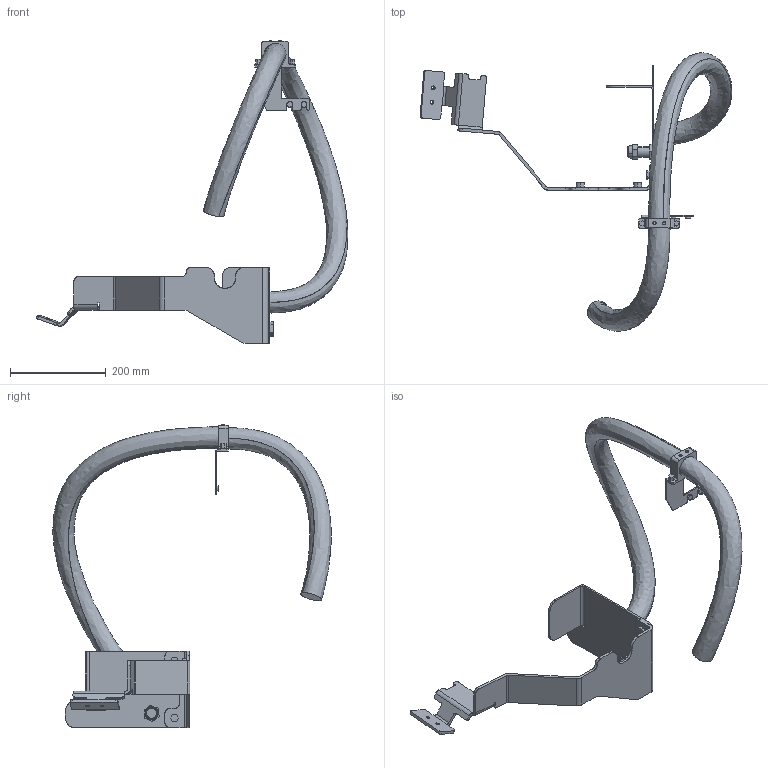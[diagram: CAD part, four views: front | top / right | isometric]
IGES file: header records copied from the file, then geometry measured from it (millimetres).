
Start section: SolidWorks IGES file using analytic representation for surfaces
Global section: file name: C:\Users\SEALDUN\OneDrive - ABB\Documents\R&D Robotics\Work Items\WI 632927\IGES\IRB5710-LID-MH_90kg-230_OC_02_IGES_J\IRB5710-LID-MH_90kg-230_OC_00_LINK03a_CABLE.igs; native system: SolidWorks 2024; preprocessor: SolidWorks 2024; author: SEALDUN; date: 250707.154022; units: millimetre
Bounding box: 652.03 x 581.77 x 634 mm (x, y, z)
Surface area: 436216.3 mm2 (no closed solid volume)
Topology: 0 solids, 0 shells, 268 faces, 3539 edges, 3539 vertices
Faces by surface type: bspline 162, revolution 106
